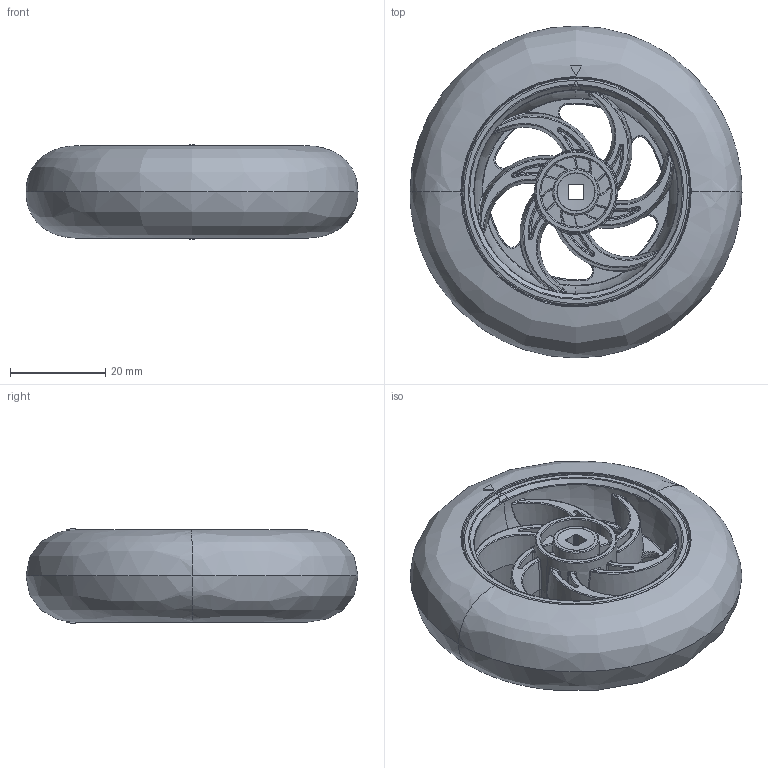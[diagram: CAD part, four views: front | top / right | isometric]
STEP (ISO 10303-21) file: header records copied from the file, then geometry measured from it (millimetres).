
FILE_DESCRIPTION (( 'STEP AP203' ), '1' );
FILE_NAME ('VEX-SMALL-WHEEL.STEP', '2007-08-25T22:12:59', ( 'Innovation First, Inc.' ), ( 'Innovation First, Inc.' ), 'SwSTEP 2.0', 'SolidWorks 2006052', '' );
FILE_SCHEMA (( 'CONFIG_CONTROL_DESIGN' ));
Products named in the file (4): VEX-SMALL-WHEEL; SMALL-WHEEL-TIRE; SMALL-WHEEL-HUB; SMALL-WHEEL-RIM
Assembly tree (3 placements, depth 2):
  VEX-SMALL-WHEEL
    SMALL-WHEEL-RIM
    SMALL-WHEEL-HUB
    SMALL-WHEEL-TIRE
Bounding box: 69.85 x 69.85 x 19.99 mm (x, y, z)
Volume: 43119.9 mm3; surface area: 31849.9 mm2
Topology: 3 solids, 3 shells, 1726 faces, 4657 edges, 2752 vertices
Faces by surface type: bspline 1057, plane 324, cylinder 246, cone 95, torus 4
Entity records: 101712 total; most frequent: CARTESIAN_POINT 68384, ORIENTED_EDGE 8970, EDGE_CURVE 4485, DIRECTION 4210, VERTEX_POINT 2766, B_SPLINE_CURVE_WITH_KNOTS 2061, EDGE_LOOP 1745, FACE_OUTER_BOUND 1730
